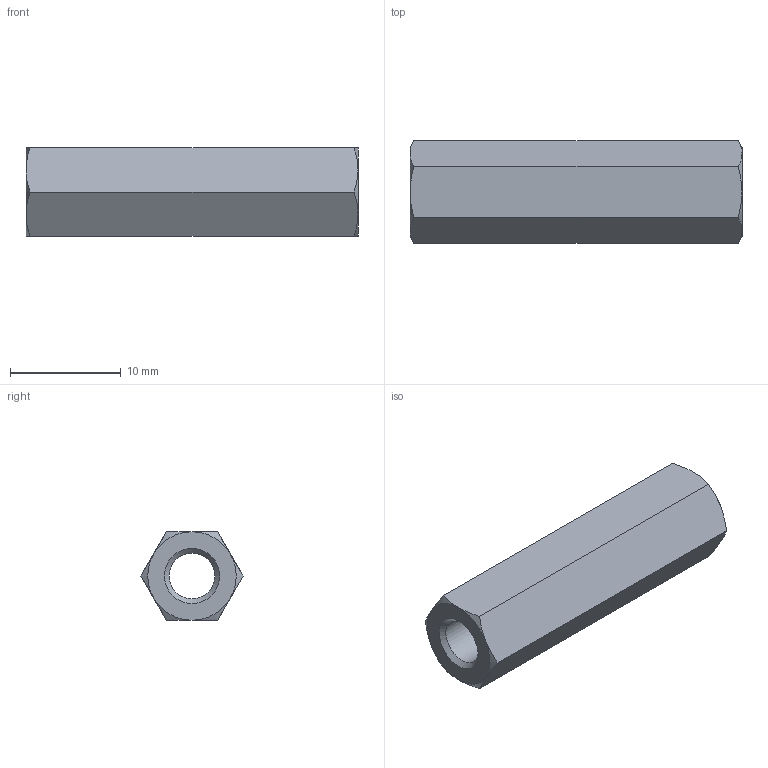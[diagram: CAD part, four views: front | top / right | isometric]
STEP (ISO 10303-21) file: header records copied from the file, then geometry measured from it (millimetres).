
FILE_DESCRIPTION( ( 'STEP AP203' ), '1' );
FILE_NAME( 'C:/Temp/Ganter_Step_05_03_2020/data/3_2/gn6220/gn6220_st/Spacer GN 6220-ST-M5-30-A.stp', '2020-03-13T05:42:27', ( 'License CC BY-ND 4.0' ), ( 'CADENAS' ), ' ', 'PARTsolutions', ' ' );
FILE_SCHEMA( ( 'CONFIG_CONTROL_DESIGN' ) );
Length unit declared in the file: millimetre
Products named in the file (1): _Spacer GN 6220-ST-M5-30-A
Bounding box: 30 x 9.24 x 8 mm (x, y, z)
Volume: 1256.4 mm3; surface area: 1293.7 mm2
Topology: 1 solids, 1 shells, 23 faces, 49 edges, 28 vertices
Faces by surface type: cone 14, plane 8, cylinder 1
Full cylindrical faces by diameter (mm): 4.134 x1
Entity records: 696 total; most frequent: CARTESIAN_POINT 202, ORIENTED_EDGE 92, DIRECTION 86, EDGE_CURVE 46, AXIS2_PLACEMENT_3D 40, EDGE_LOOP 28, VERTEX_POINT 28, FACE_OUTER_BOUND 24
